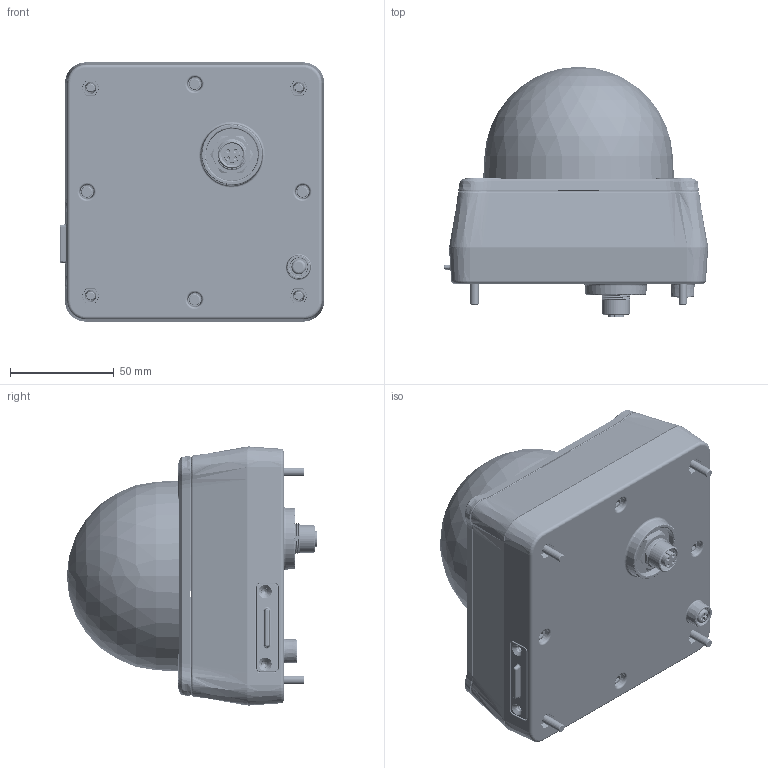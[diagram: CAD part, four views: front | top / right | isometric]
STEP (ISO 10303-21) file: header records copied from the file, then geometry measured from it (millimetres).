
FILE_DESCRIPTION((''),'2;1');
FILE_NAME('PRT0003','2014-04-08T',('Sam_Liu'),(''),'PRO/ENGINEER BY PARAMETRIC TECHNOLOGY CORPORATION, 2013230','PRO/ENGINEER BY PARAMETRIC TECHNOLOGY CORPORATION, 2013230','');
FILE_SCHEMA(('CONFIG_CONTROL_DESIGN'));
Length unit declared in the file: millimetre
Products named in the file (1): PRT0003
Bounding box: 127.5 x 120.7 x 125 mm (x, y, z)
Volume: 201859.9 mm3; surface area: 324626.4 mm2
Topology: 13 solids, 76 shells, 5712 faces, 15684 edges, 10342 vertices
Faces by surface type: plane 3103, cylinder 1399, cone 571, torus 346, bspline 233, extrusion 40, sphere 19, revolution 1
Entity records: 204938 total; most frequent: CARTESIAN_POINT 59010, ORIENTED_EDGE 31226, DIRECTION 29618, EDGE_CURVE 15613, VERTEX_POINT 10342, AXIS2_PLACEMENT_3D 10110, VECTOR 9397, LINE 9357
